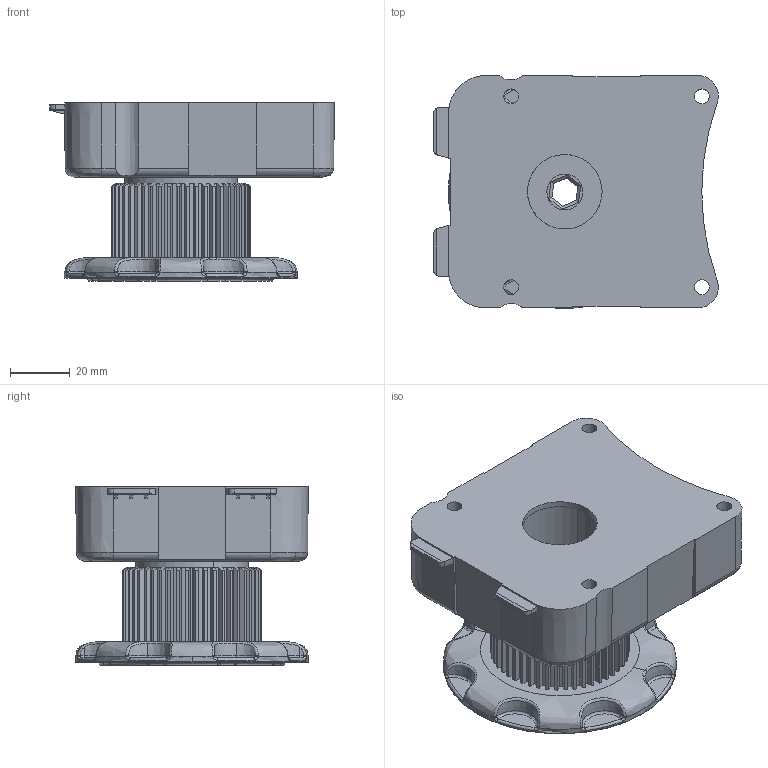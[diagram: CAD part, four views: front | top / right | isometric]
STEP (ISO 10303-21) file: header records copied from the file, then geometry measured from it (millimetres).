
FILE_DESCRIPTION (( 'STEP AP214' ), '1' );
FILE_NAME ('540906.STEP', '2020-02-24T14:57:07', ( '' ), ( '' ), 'SwSTEP 2.0', 'SolidWorks 2019', '' );
FILE_SCHEMA (( 'AUTOMOTIVE_DESIGN' ));
Length unit declared in the file: millimetre
Products named in the file (1): 540906
Bounding box: 95.5 x 78.15 x 60 mm (x, y, z)
Volume: 186475.2 mm3; surface area: 57841.1 mm2
Topology: 3 solids, 3 shells, 615 faces, 1795 edges, 1180 vertices
Faces by surface type: plane 259, cylinder 162, bspline 112, torus 43, cone 39
Entity records: 38002 total; most frequent: CARTESIAN_POINT 16059, ORIENTED_EDGE 3574, DIRECTION 2730, EDGE_CURVE 1787, VERTEX_POINT 1180, AXIS2_PLACEMENT_3D 1046, LINE 638, VECTOR 638
